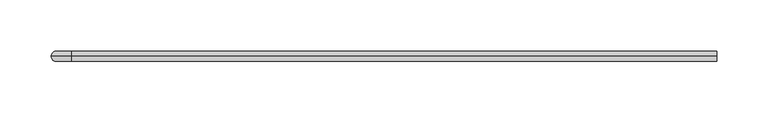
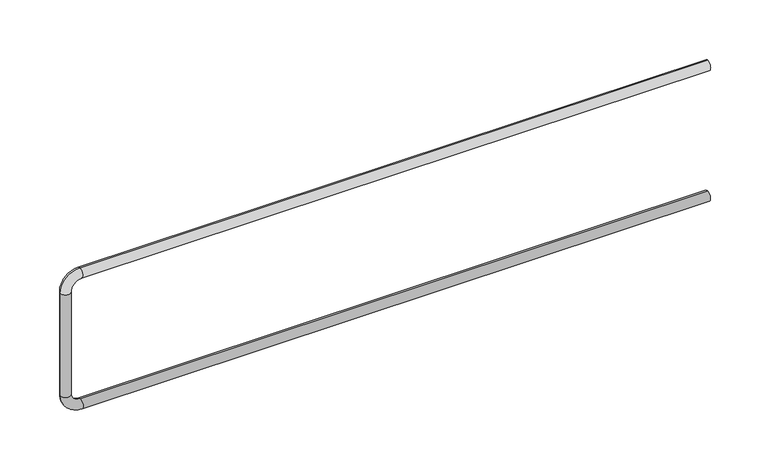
"""IFC4 building model written with IfcOpenShell, lengths in millimetres: proxy geometry, ACINOXplus_Typenreihe_Ux-Ox : UC+ S3."""

from ifc_helpers import new_model, si_unit, point, frame, origin, place, context, project, spatial, circle_curve, ellipse_curve, trimmed, source, transform, mapped, element, save
from ifc_brep_helpers import plane_surface, cylinder_surface, revolved_surface, advanced_brep


def generic_models_0bc56337(model_context):
    return source(origin(), model_context, "Body", "AdvancedBrep", [
        advanced_brep(
        [(440.0, -375.0, -25.5), (440.0, -375.0, -35.5), (-190.0, -375.0, -25.5), (-190.0, -375.0, -35.5), (-200.0, -375.0, -45.5), (-210.0, -375.0, -45.5), (-210.0, -375.0, -154.5), (-200.0, -375.0, -154.5), (-190.0, -375.0, -164.5), (-190.0, -375.0, -174.5), (440.0, -375.0, -174.5), (440.0, -375.0, -164.5)],
        [
            (0, 1, circle_curve(frame((440.0, -375.0, -30.5), z_axis=(1.0, 0.0, 0.0), x_axis=(0.0, 0.0, -1.0)), 5.0)),
            (1, 0, circle_curve(frame((440.0, -375.0, -30.5), z_axis=(1.0, 0.0, 0.0), x_axis=(0.0, 0.0, -1.0)), 5.0)),
            (0, 2),
            (2, 3, circle_curve(frame((-190.0, -375.0, -30.5), z_axis=(1.0, 0.0, 0.0), x_axis=(0.0, 0.0, -1.0)), 5.0)),
            (3, 1),
            (3, 2, circle_curve(frame((-190.0, -375.0, -30.5), z_axis=(1.0, 0.0, 0.0), x_axis=(0.0, 0.0, -1.0)), 5.0)),
            (4, 3, circle_curve(frame((-190.0, -375.0, -45.5), z_axis=(0.0, 1.0, 0.0), x_axis=(0.0, 0.0, 1.0)), 10.0)),
            (2, 5, circle_curve(frame((-190.0, -375.0, -45.5), z_axis=(0.0, -1.0, 0.0), x_axis=(0.0, 0.0, 1.0)), 20.0)),
            (5, 4, circle_curve(frame((-205.0, -375.0, -45.5), z_axis=(0.0, 0.0, 1.0), x_axis=(1.0, 0.0, 0.0)), 5.0)),
            (4, 5, circle_curve(frame((-205.0, -375.0, -45.5), z_axis=(0.0, 0.0, 1.0), x_axis=(1.0, 0.0, 0.0)), 5.0)),
            (5, 6),
            (6, 7, circle_curve(frame((-205.0, -375.0, -154.5), z_axis=(0.0, 0.0, 1.0), x_axis=(1.0, 0.0, 0.0)), 5.0)),
            (7, 4),
            (7, 6, circle_curve(frame((-205.0, -375.0, -154.5), z_axis=(0.0, 0.0, 1.0), x_axis=(1.0, 0.0, 0.0)), 5.0)),
            (8, 7, circle_curve(frame((-190.0, -375.0, -154.5), z_axis=(0.0, 1.0, 0.0), x_axis=(-1.0, 0.0, 0.0)), 10.0)),
            (6, 9, circle_curve(frame((-190.0, -375.0, -154.5), z_axis=(0.0, -1.0, 0.0), x_axis=(-1.0, 0.0, 0.0)), 20.0)),
            (9, 8, circle_curve(frame((-190.0, -375.0, -169.5), z_axis=(-1.0, 0.0, 0.0), x_axis=(0.0, 0.0, 1.0)), 5.0)),
            (8, 9, circle_curve(frame((-190.0, -375.0, -169.5), z_axis=(-1.0, 0.0, 0.0), x_axis=(0.0, 0.0, 1.0)), 5.0)),
            (10, 11, circle_curve(frame((440.0, -375.0, -169.5), z_axis=(1.0, 0.0, 0.0), x_axis=(0.0, 0.0, 1.0)), 5.0)),
            (11, 10, circle_curve(frame((440.0, -375.0, -169.5), z_axis=(1.0, 0.0, 0.0), x_axis=(0.0, 0.0, 1.0)), 5.0)),
            (9, 10),
            (11, 8),
        ],
        [
            plane_surface(frame((440.0, -375.0, -30.5), z_axis=(1.0, 0.0, 0.0), x_axis=(0.0, -1.0, 0.0))),
            cylinder_surface(frame((440.0, -375.0, -30.5), z_axis=(1.0, 0.0, 0.0), x_axis=(0.0, 0.0, -1.0)), 5.0),
            revolved_surface(trimmed(ellipse_curve(frame((-190.0, -375.0, -30.5), z_axis=(1.0, 0.0, 0.0), x_axis=(0.0, 0.0, -1.0)), 5.0, 5.0), [point((-190.0, -375.0, -25.5))], [point((-190.0, -375.0, -35.5))], True, "CARTESIAN"), (-190.0, -375.0, -45.5), (0.0, -1.0, 0.0)),
            revolved_surface(trimmed(ellipse_curve(frame((-190.0, -375.0, -30.5), z_axis=(1.0, 0.0, 0.0), x_axis=(0.0, 0.0, -1.0)), 5.0, 5.0), [point((-190.0, -375.0, -35.5))], [point((-190.0, -375.0, -25.5))], True, "CARTESIAN"), (-190.0, -375.0, -45.5), (0.0, -1.0, 0.0)),
            cylinder_surface(frame((-205.0, -375.0, -45.5), z_axis=(0.0, 0.0, 1.0), x_axis=(1.0, 0.0, 0.0)), 5.0),
            revolved_surface(trimmed(ellipse_curve(frame((-205.0, -375.0, -154.5), z_axis=(0.0, 0.0, 1.0), x_axis=(1.0, 0.0, 0.0)), 5.0, 5.0), [point((-210.0, -375.0, -154.5))], [point((-200.0, -375.0, -154.5))], True, "CARTESIAN"), (-190.0, -375.0, -154.5), (0.0, -1.0, 0.0)),
            revolved_surface(trimmed(ellipse_curve(frame((-205.0, -375.0, -154.5), z_axis=(0.0, 0.0, 1.0), x_axis=(1.0, 0.0, 0.0)), 5.0, 5.0), [point((-200.0, -375.0, -154.5))], [point((-210.0, -375.0, -154.5))], True, "CARTESIAN"), (-190.0, -375.0, -154.5), (0.0, -1.0, 0.0)),
            plane_surface(frame((440.0, -375.0, -169.5), z_axis=(1.0, 0.0, 0.0), x_axis=(0.0, -1.0, 0.0))),
            cylinder_surface(frame((-190.0, -375.0, -169.5), z_axis=(-1.0, 0.0, 0.0), x_axis=(0.0, 0.0, 1.0)), 5.0),
        ],
        [
            (0, [[1, 2]]),
            (1, [[-1, 3, 4, 5]]),
            (1, [[-2, -5, 6, -3]]),
            (2, [[7, -4, 8, 9]]),
            (3, [[-8, -6, -7, 10]]),
            (4, [[-9, 11, 12, 13]]),
            (4, [[-10, -13, 14, -11]]),
            (5, [[15, -12, 16, 17]]),
            (6, [[-16, -14, -15, 18]]),
            (7, [[19, 20]]),
            (8, [[-17, 21, -20, 22]]),
            (8, [[-18, -22, -19, -21]]),
        ],
    ),
    ])


if __name__ == "__main__":
    model = new_model("IFC4")
    model_context = context("Model", 3, world=origin())
    ifc_project = project(units=[si_unit("LENGTHUNIT", "METRE", prefix="MILLI")], contexts=[model_context])
    site = spatial("IfcSite", under=ifc_project)
    building = spatial("IfcBuilding", under=site)
    placement = place(None, origin())
    generic_models_shape = generic_models_0bc56337(model_context)
    element("IfcBuildingElementProxy", 1, Name="ACINOXplus_Typenreihe_Ux-Ox : UC+ S3", ObjectType="ACINOXplus_Typenreihe_Ux-Ox : UC+ S3", at=placement, inside=building, context=model_context, shape_type="MappedRepresentation", body=[
        mapped(generic_models_shape, transform((0.0, 0.0, 0.0), x_axis=(1.0, 0.0, 0.0), y_axis=(0.0, 1.0, 0.0), z_axis=(0.0, 0.0, 1.0))),
    ])
    save(model, "model.ifc")
